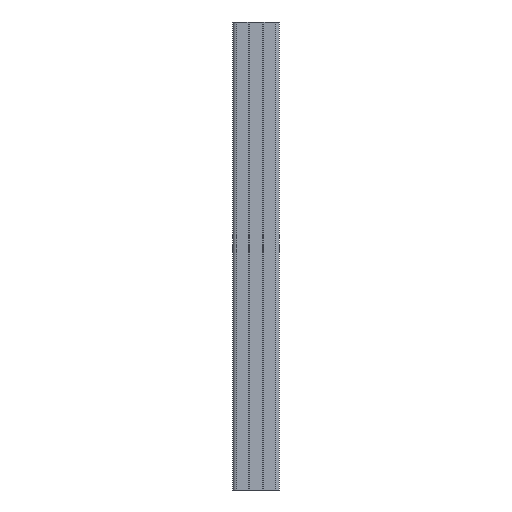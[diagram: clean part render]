
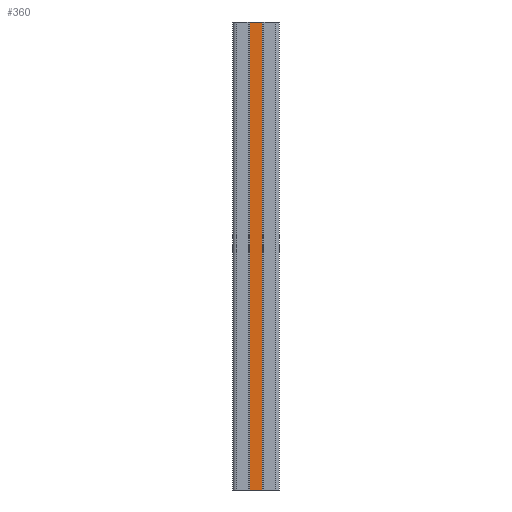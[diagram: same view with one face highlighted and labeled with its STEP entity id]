
A CAD part, front view. The second image highlights one B-rep face of the part: STEP entity #360.
In plain terms, the highlighted planar face has unit normal (0, -1, 0).
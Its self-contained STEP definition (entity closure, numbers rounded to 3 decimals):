
#346 = ORIENTED_EDGE ( 'NONE', *, *, #2475, .F. ) ;
#360 = ADVANCED_FACE ( 'NONE', ( #3034 ), #2917, .F. ) ;
#394 = CARTESIAN_POINT ( 'NONE',  ( 4.194, -5.75, 150. ) ) ;
#425 = ORIENTED_EDGE ( 'NONE', *, *, #3268, .T. ) ;
#429 = EDGE_CURVE ( 'NONE', #3339, #1001, #2315, .T. ) ;
#831 = DIRECTION ( 'NONE',  ( 0., 0., 1. ) ) ;
#906 = CARTESIAN_POINT ( 'NONE',  ( -4.194, -5.75, 150. ) ) ;
#939 = VERTEX_POINT ( 'NONE', #2368 ) ;
#1001 = VERTEX_POINT ( 'NONE', #394 ) ;
#1092 = EDGE_CURVE ( 'NONE', #3339, #1391, #3386, .T. ) ;
#1175 = DIRECTION ( 'NONE',  ( 0., 1., 0. ) ) ;
#1216 = VECTOR ( 'NONE', #2679, 1000. ) ;
#1263 = CARTESIAN_POINT ( 'NONE',  ( -4.194, -5.75, -150. ) ) ;
#1271 = DIRECTION ( 'NONE',  ( 1., 0., 0. ) ) ;
#1391 = VERTEX_POINT ( 'NONE', #1263 ) ;
#1455 = AXIS2_PLACEMENT_3D ( 'NONE', #1524, #1175, #831 ) ;
#1524 = CARTESIAN_POINT ( 'NONE',  ( 0., -5.75, 150. ) ) ;
#1631 = CARTESIAN_POINT ( 'NONE',  ( -4.194, -5.75, 150. ) ) ;
#1849 = DIRECTION ( 'NONE',  ( 1., 0., 0. ) ) ;
#1853 = DIRECTION ( 'NONE',  ( 0., 0., -1. ) ) ;
#2054 = VECTOR ( 'NONE', #1271, 1000. ) ;
#2104 = ORIENTED_EDGE ( 'NONE', *, *, #1092, .T. ) ;
#2196 = CARTESIAN_POINT ( 'NONE',  ( 0., -5.75, -150. ) ) ;
#2203 = CARTESIAN_POINT ( 'NONE',  ( 4.194, -5.75, 150. ) ) ;
#2283 = VECTOR ( 'NONE', #1849, 1000. ) ;
#2315 = LINE ( 'NONE', #1631, #2054 ) ;
#2368 = CARTESIAN_POINT ( 'NONE',  ( 4.194, -5.75, -150. ) ) ;
#2423 = ORIENTED_EDGE ( 'NONE', *, *, #429, .F. ) ;
#2475 = EDGE_CURVE ( 'NONE', #1001, #939, #2547, .T. ) ;
#2539 = LINE ( 'NONE', #2196, #2283 ) ;
#2547 = LINE ( 'NONE', #2203, #3050 ) ;
#2679 = DIRECTION ( 'NONE',  ( 0., 0., -1. ) ) ;
#2917 = PLANE ( 'NONE',  #1455 ) ;
#3010 = EDGE_LOOP ( 'NONE', ( #425, #346, #2423, #2104 ) ) ;
#3027 = CARTESIAN_POINT ( 'NONE',  ( -4.194, -5.75, 150. ) ) ;
#3034 = FACE_OUTER_BOUND ( 'NONE', #3010, .T. ) ;
#3050 = VECTOR ( 'NONE', #1853, 1000. ) ;
#3268 = EDGE_CURVE ( 'NONE', #1391, #939, #2539, .T. ) ;
#3339 = VERTEX_POINT ( 'NONE', #906 ) ;
#3386 = LINE ( 'NONE', #3027, #1216 ) ;
